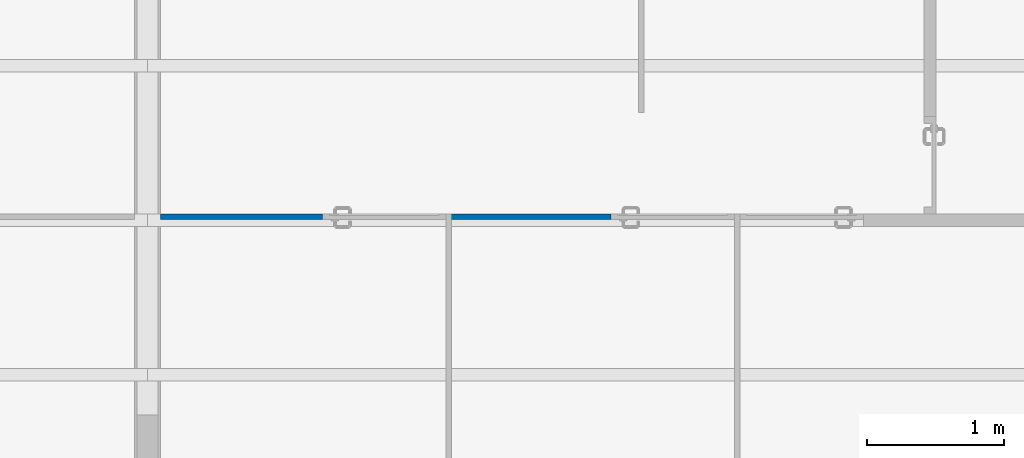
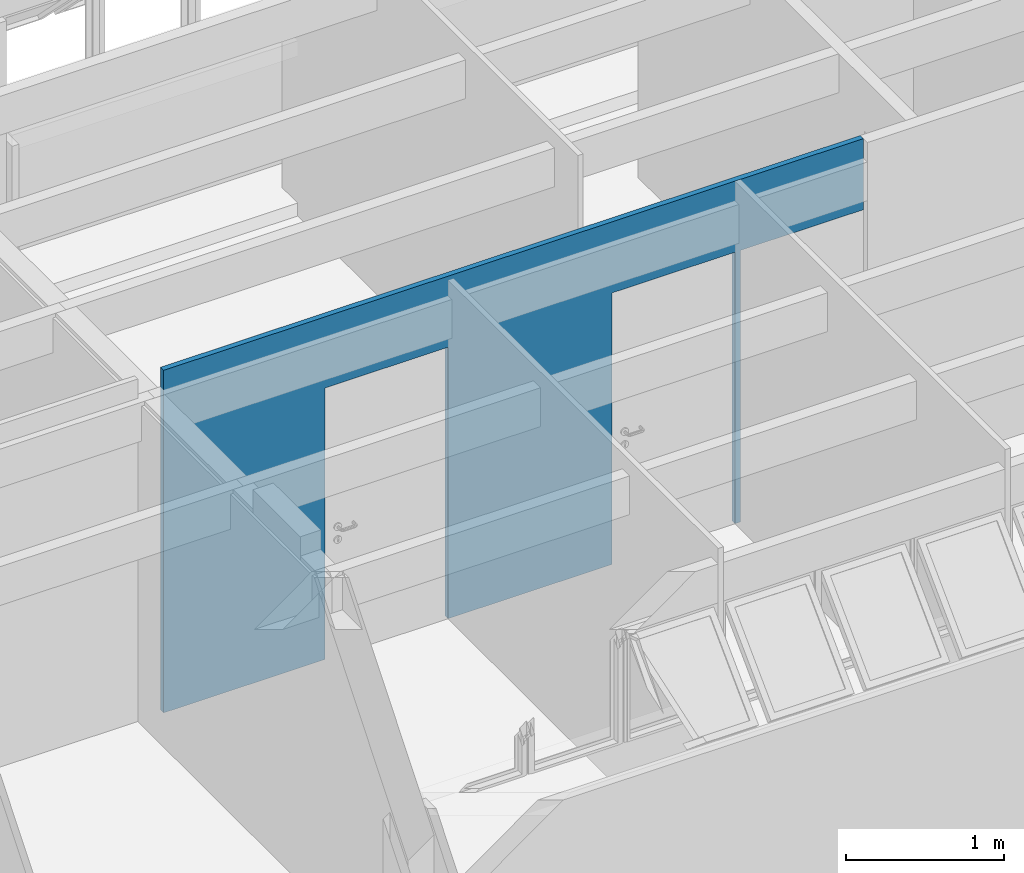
# One storey, part 9 of 37: 1 wall, 3 openings.
"""IFC2X3 building model written with IfcOpenShell, lengths in millimetres."""

from ifc_helpers import new_model, entity, si_unit, converted_unit, derived_unit, money_unit, direction, frame, origin_with_axes, origin_2d_with_axis, place, context, subcontext, project, spatial, polyline, rectangle, outline, extrude, material, layer, layer_set, layer_usage, type_object, element, save


model = new_model("IFC2X3")

# Units and contexts
model_context = context("Model", 3, precision=0.01, world=origin_with_axes(), true_north=direction((0.0, 1.0)))
body_context = subcontext(model_context, "Body", "Model", "MODEL_VIEW")
ifc_project = project(units=[si_unit("LENGTHUNIT", "METRE", prefix="MILLI"), si_unit("AREAUNIT", "SQUARE_METRE"), si_unit("VOLUMEUNIT", "CUBIC_METRE"), converted_unit("PLANEANGLEUNIT", "DEGREE", entity("IfcPlaneAngleMeasure", 0.0174532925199), si_unit("PLANEANGLEUNIT", "RADIAN"), dimensions=[0, 0, 0, 0, 0, 0, 0]), money_unit("USD"), converted_unit("TIMEUNIT", "Year", entity("IfcTimeMeasure", 31556926.0), si_unit("TIMEUNIT", "SECOND"), dimensions=[0, 0, 1, 0, 0, 0, 0]), si_unit("MASSUNIT", "GRAM", prefix="KILO"), si_unit("THERMODYNAMICTEMPERATUREUNIT", "DEGREE_CELSIUS"), si_unit("LUMINOUSINTENSITYUNIT", "LUMEN"), si_unit("ENERGYUNIT", "JOULE", prefix="MEGA"), derived_unit("THERMALCONDUCTANCEUNIT", [(si_unit("POWERUNIT", "WATT"), 1), (si_unit("LENGTHUNIT", "METRE"), -1), (si_unit("THERMODYNAMICTEMPERATUREUNIT", "KELVIN"), -1)]), derived_unit("SPECIFICHEATCAPACITYUNIT", [(si_unit("ENERGYUNIT", "JOULE"), 1), (si_unit("MASSUNIT", "GRAM", prefix="KILO"), -1), (si_unit("THERMODYNAMICTEMPERATUREUNIT", "KELVIN"), -1)]), derived_unit("MASSDENSITYUNIT", [(si_unit("MASSUNIT", "GRAM", prefix="KILO"), 1), (si_unit("VOLUMEUNIT", "CUBIC_METRE"), -1)])], contexts=[model_context])

# Site, building, storey
site_placement = place(None, origin_with_axes())
site = spatial("IfcSite", under=ifc_project, at=site_placement, Name="Local", CompositionType="ELEMENT")
building_placement = place(site_placement, origin_with_axes())
building = spatial("IfcBuilding", under=site, at=building_placement, Name="Construção", CompositionType="ELEMENT")
storey_placement = place(building_placement, frame((0.0, 0.0, 5300.0), z_axis=(0.0, 0.0, 1.0), x_axis=(1.0, 0.0, 0.0)))
storey = spatial("IfcBuildingStorey", under=building, at=storey_placement, Name="Terceiro Pavimento", CompositionType="ELEMENT", Elevation=5300.0)

# Wall, openings
ifc_material = material(Name="GENÉRICO - VEDAÇÃO EXTERNA")
ifc_layer = layer(ifc_material, 40.0, ventilated="UNKNOWN")
ifc_layer_set = layer_set([ifc_layer], Name="GENÉRICO - VEDAÇÃO EXTERNA 40")
ifc_layer_usage = layer_usage(ifc_layer_set, "AXIS2", "POSITIVE", 0.0)
wall_type = type_object("IfcWallType", Name="GENÉRICO - VEDAÇÃO EXTERNA 40", PredefinedType="NOTDEFINED")
wall_placement = place(storey_placement, frame((12600.0, 3765.2195667, 0.0), z_axis=(0.0, 0.0, 1.0), x_axis=(-0.99999999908, -4.28841203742e-05, 0.0)))
wall = element("IfcWallStandardCase", 1, at=wall_placement, inside=storey, type_object=wall_type, material=ifc_layer_usage, Name="APTO10-PAREDE-006", context=body_context, shape_type="SweptSolid", body=[
    extrude(outline(polyline([(0.0, 0.0), (5120.00000471, 0.0), (5120.00172007, 40.0), (0.000857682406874, 40.0), (0.0, 0.0)])), origin_with_axes(), (0.0, 0.0, 1.0), 2650.0),
])
opening_1_placement = place(wall_placement, frame((1390.00000471, 0.0, 0.0), z_axis=(0.0, 0.0, 1.0), x_axis=(1.0, 0.0, 0.0)))
element("IfcOpeningElement", 2, at=opening_1_placement, cuts=wall, Name="APTO10-PORTA-002", context=body_context, shape_type="SweptSolid", body=[
    extrude(rectangle(XDim=900.0, YDim=2100.0, at=origin_2d_with_axis()), frame((0.0, 40.0, 1050.0), z_axis=(0.0, 1.0, 0.0), x_axis=(-1.0, 0.0, 0.0)), (0.0, 0.0, -1.0), 120.0),
])
opening_2_placement = place(wall_placement, frame((450.000004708, 0.0, 0.0), z_axis=(0.0, 0.0, 1.0), x_axis=(1.0, 0.0, 0.0)))
element("IfcOpeningElement", 3, at=opening_2_placement, cuts=wall, Name="APTO10-PORTA-001", context=body_context, shape_type="SweptSolid", body=[
    extrude(rectangle(XDim=900.0, YDim=2100.0, at=origin_2d_with_axis()), frame((0.0, 40.0, 1050.0), z_axis=(0.0, -1.0, 0.0), x_axis=(1.0, 0.0, 0.0)), (0.0, 0.0, 1.0), 120.0),
])
opening_3_placement = place(wall_placement, frame((3490.00000471, 0.0, 0.0), z_axis=(0.0, 0.0, 1.0), x_axis=(1.0, 0.0, 0.0)))
element("IfcOpeningElement", 4, at=opening_3_placement, cuts=wall, Name="APTO10-PORTA-000", context=body_context, shape_type="SweptSolid", body=[
    extrude(rectangle(XDim=900.0, YDim=2100.0, at=origin_2d_with_axis()), frame((0.0, 40.0, 1050.0), z_axis=(0.0, 1.0, 0.0), x_axis=(-1.0, 0.0, 0.0)), (0.0, 0.0, -1.0), 120.0),
])

save(model, "model.ifc")
